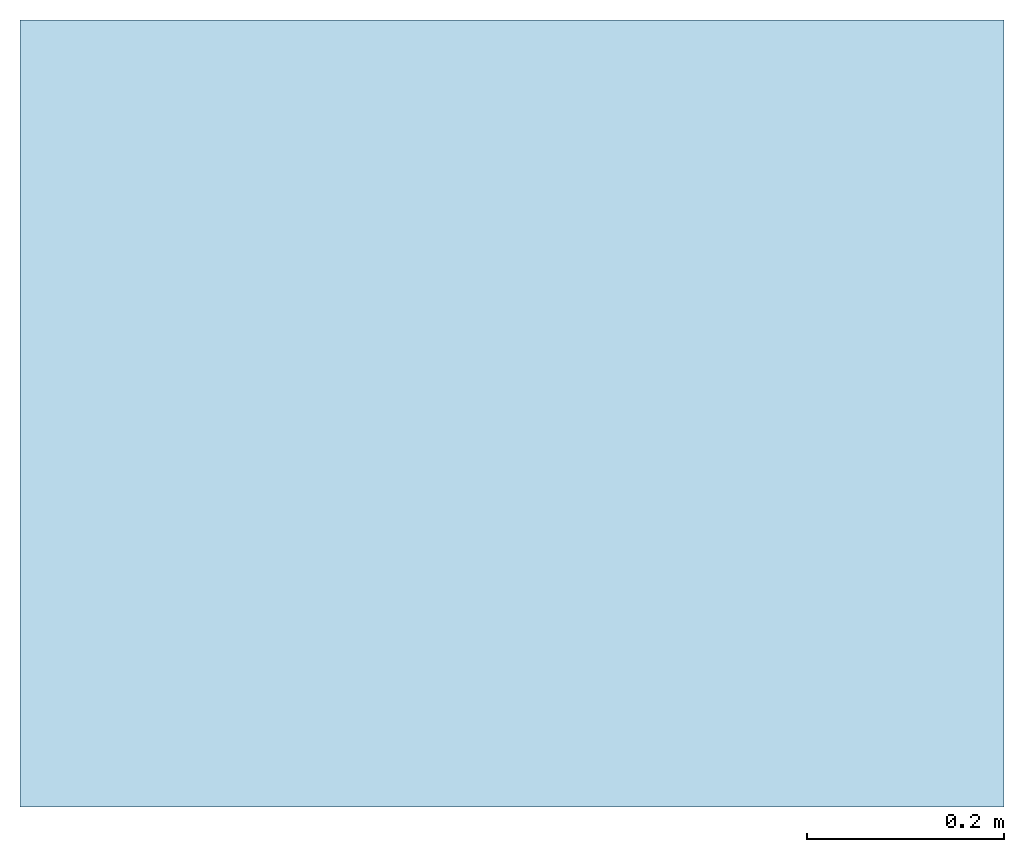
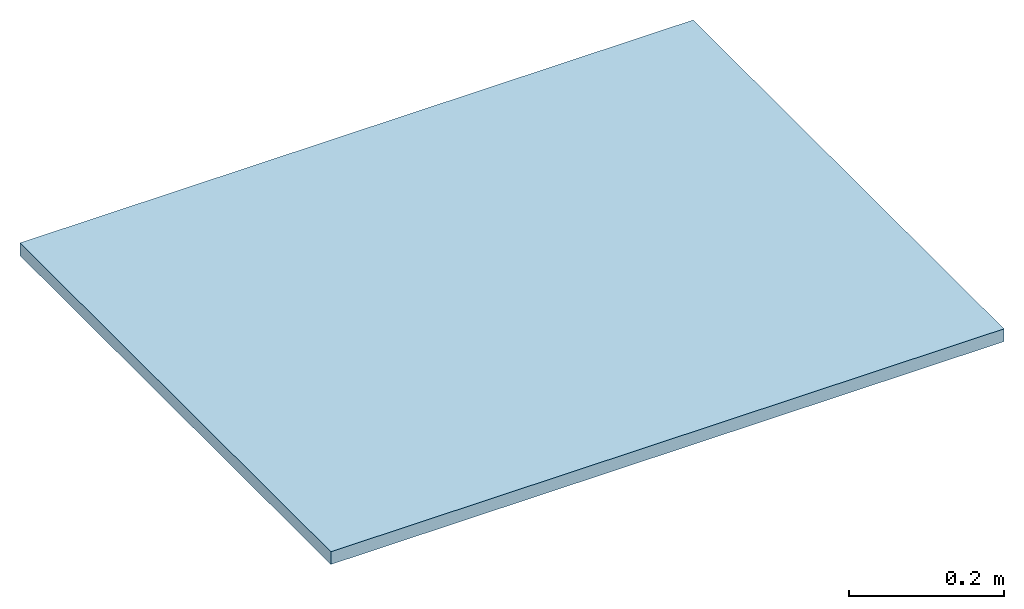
# One storey: 1 slab.
"""IFC2X3 building model written with IfcOpenShell, lengths in millimetres."""

import ifcopenshell
import ifcopenshell.guid

model = None  # the IFC model being written
_history = None  # IfcOwnerHistory: only IFC2X3 demands one
_inside = {}  # id of a spatial element -> (the spatial element, [elements in it])
_under = {}  # id of a project, library or spatial element -> (it, [spatial elements below it])
_declared = {}  # id of a project -> (the project, [libraries it declares])
_typed = {}  # id of a type object -> (the type object, [elements of that type])
_made_of = {}  # id of a material, layer set ... -> (it, [elements and type objects made of it])


def new_model(schema):
    """Start an empty IFC model of exactly this schema.

    Asked for "IFC4X3", IfcOpenShell would pick the latest addendum, in which some entities
    have other attributes; the version numbers below select the first issue.
    IFC2X3 requires an IfcOwnerHistory on every rooted entity: one is made here for all.
    """
    global model, _history
    if schema == "IFC4X3":
        model = ifcopenshell.file(schema_version=(4, 3, 0, 0))
    else:
        model = ifcopenshell.file(schema=schema)
    _inside.clear()
    _under.clear()
    _declared.clear()
    _typed.clear()
    _made_of.clear()
    _history = None
    if model.schema == "IFC2X3":
        org = make("IfcOrganization", Name="unknown")
        user = make(
            "IfcPersonAndOrganization",
            ThePerson=make("IfcPerson", FamilyName="unknown"),
            TheOrganization=org,
        )
        app = make(
            "IfcApplication",
            ApplicationDeveloper=org,
            Version="unknown",
            ApplicationFullName="unknown",
            ApplicationIdentifier="unknown",
        )
        _history = make(
            "IfcOwnerHistory",
            OwningUser=user,
            OwningApplication=app,
            ChangeAction="ADDED",
            CreationDate=0,
        )
    return model


def make(cls, **values):
    """One entity of the class cls with the attributes given. An attribute that is None is left unset."""
    return model.create_entity(
        cls, **{name: value for name, value in values.items() if value is not None}
    )


def entity(cls, *values):
    """Any entity or typed value of the class cls, its attributes in the order of the schema. None: left unset."""
    e = model.create_entity(cls)
    for i, value in enumerate(values):
        if value is not None:
            e[i] = value
    return e


def rooted(cls, **values):
    """An entity with a GlobalId (a new one), such as an element, a storey or a relation."""
    return make(cls, GlobalId=ifcopenshell.guid.new(), OwnerHistory=_history, **values)


def si_unit(unit_type, name, prefix=None):
    """IfcSIUnit, for example si_unit("LENGTHUNIT", "METRE", prefix="MILLI")."""
    return make("IfcSIUnit", UnitType=unit_type, Prefix=prefix, Name=name)


def converted_unit(unit_type, name, factor, base, dimensions=None, offset=None):
    """IfcConversionBasedUnit, such as the inch: factor (a typed value) times the base unit."""
    return make(
        "IfcConversionBasedUnit"
        if offset is None
        else "IfcConversionBasedUnitWithOffset",
        ConversionOffset=offset,
        Dimensions=None
        if dimensions is None
        else entity("IfcDimensionalExponents", *dimensions),
        UnitType=unit_type,
        Name=name,
        ConversionFactor=make(
            "IfcMeasureWithUnit", ValueComponent=factor, UnitComponent=base
        ),
    )


def derived_unit(unit_type, elements):
    """IfcDerivedUnit: a product of units, each with its exponent."""
    return make(
        "IfcDerivedUnit",
        Elements=[
            make("IfcDerivedUnitElement", Unit=unit, Exponent=power)
            for unit, power in elements
        ],
        UnitType=unit_type,
    )


def assignment(units):
    """IfcUnitAssignment: the units of a project."""
    return None if units is None else make("IfcUnitAssignment", Units=units)


def point(xyz):
    """IfcCartesianPoint."""
    return None if xyz is None else make("IfcCartesianPoint", Coordinates=xyz)


def direction(xyz):
    """IfcDirection."""
    return None if xyz is None else make("IfcDirection", DirectionRatios=xyz)


def frame(location, z_axis=None, x_axis=None):
    """IfcAxis2Placement3D, a coordinate frame: its origin and axes. An axis left out is left unset."""
    return make(
        "IfcAxis2Placement3D",
        Location=point(location),
        Axis=direction(z_axis),
        RefDirection=direction(x_axis),
    )


def frame_2d(location, x_axis=None):
    """IfcAxis2Placement2D, a coordinate frame in the plane: its origin and x axis."""
    return make(
        "IfcAxis2Placement2D", Location=point(location), RefDirection=direction(x_axis)
    )


def origin():
    """The frame at (0, 0, 0) with its axes left unset."""
    return frame((0.0, 0.0, 0.0))


def origin_2d_with_axis():
    """The frame at (0, 0) in the plane with the x axis (1, 0) written out."""
    return frame_2d((0.0, 0.0), x_axis=(1.0, 0.0))


def place(relative_to, where):
    """IfcLocalPlacement: puts the frame where relative to a parent placement (None: the world)."""
    return make(
        "IfcLocalPlacement", PlacementRelTo=relative_to, RelativePlacement=where
    )


def context(
    kind, dimensions, precision=None, world=None, true_north=None, identifier=None
):
    """IfcGeometricRepresentationContext, for example the 3D "Model" context."""
    return make(
        "IfcGeometricRepresentationContext",
        ContextIdentifier=identifier,
        ContextType=kind,
        CoordinateSpaceDimension=dimensions,
        Precision=precision,
        WorldCoordinateSystem=world,
        TrueNorth=true_north,
    )


def subcontext(parent, identifier, kind, view, scale=None):
    """IfcGeometricRepresentationSubContext, for example "Body" below "Model"."""
    return make(
        "IfcGeometricRepresentationSubContext",
        ContextIdentifier=identifier,
        ContextType=kind,
        ParentContext=parent,
        TargetScale=scale,
        TargetView=view,
    )


def project(units=None, contexts=None):
    """IfcProject with its units and contexts."""
    return rooted(
        "IfcProject",
        Name="project",
        RepresentationContexts=contexts,
        UnitsInContext=assignment(units),
    )


def spatial(cls, under=None, at=None, **own):
    """A site, building, storey or space (cls), placed at a placement, below another one or the project."""
    s = rooted(cls, ObjectPlacement=at, **own)
    if under is not None:
        _under.setdefault(under.id(), (under, []))[1].append(s)
    return s


def profile(cls, at=None, kind="AREA", **sizes):
    """A parametric profile (cls). Its sizes go by their IFC names, for example OverallWidth=200.0."""
    return make(cls, ProfileType=kind, Position=at, **sizes)


def rectangle(**sizes):
    """IfcRectangleProfileDef."""
    return profile("IfcRectangleProfileDef", **sizes)


def extrude(swept, where, along, depth):
    """IfcExtrudedAreaSolid: the profile swept, set in the frame where, extruded along a direction by depth."""
    return make(
        "IfcExtrudedAreaSolid",
        SweptArea=swept,
        Position=where,
        ExtrudedDirection=direction(along),
        Depth=depth,
    )


def shape(context_of_items, identifier, shape_type, items):
    """IfcShapeRepresentation: the items that make up one representation, for example the "Body"."""
    return make(
        "IfcShapeRepresentation",
        ContextOfItems=context_of_items,
        RepresentationIdentifier=identifier,
        RepresentationType=shape_type,
        Items=items,
    )


def material(Name=None, Category=None):
    """IfcMaterial."""
    return make("IfcMaterial", Name=Name, Category=Category)


def layer(
    of_material, thickness, ventilated=None, Name=None, Category=None, Priority=None
):
    """IfcMaterialLayer: one layer of a wall or slab, of a material (None: an air gap)."""
    return make(
        "IfcMaterialLayer",
        Material=of_material,
        LayerThickness=thickness,
        IsVentilated=ventilated,
        Name=Name,
        Category=Category,
        Priority=Priority,
    )


def layer_set(layers, Name=None):
    """IfcMaterialLayerSet."""
    return make("IfcMaterialLayerSet", MaterialLayers=layers, LayerSetName=Name)


def layer_usage(for_layer_set, set_direction, sense, offset, extent=None):
    """IfcMaterialLayerSetUsage: how a layer set lies in its element."""
    return make(
        "IfcMaterialLayerSetUsage",
        ForLayerSet=for_layer_set,
        LayerSetDirection=set_direction,
        DirectionSense=sense,
        OffsetFromReferenceLine=offset,
        ReferenceExtent=extent,
    )


def made_of(thing, what):
    """Note that an element or type object is made of a material, layer set ...; save() writes the relation."""
    if what is not None:
        _made_of.setdefault(what.id(), (what, []))[1].append(thing)
    return thing


def element(
    cls,
    number,
    at=None,
    inside=None,
    cuts=None,
    type_object=None,
    material=None,
    context=None,
    identifier="Body",
    shape_type=None,
    held_by="IfcProductDefinitionShape",
    body=None,
    shapes=None,
    **own,
):
    """One element of the class cls, such as IfcWall. Its Tag is "e" and its number.

    at: its placement. inside: the storey or other place that contains it. cuts: it is an
    opening in that element (IfcRelVoidsElement). A single representation is given by context,
    identifier, shape_type and body (its items); several are given by shapes. held_by: the class
    of the entity that holds the representations. save() writes the other relations.
    """
    e = rooted(cls, Tag="e%d" % number, ObjectPlacement=at, **own)
    if body is not None:
        shapes = [shape(context, identifier, shape_type, body)]
    if shapes is not None:
        e.Representation = make(held_by, Representations=shapes)
    if inside is not None:
        _inside.setdefault(inside.id(), (inside, []))[1].append(e)
    if cuts is not None:
        rooted(
            "IfcRelVoidsElement", RelatingBuildingElement=cuts, RelatedOpeningElement=e
        )
    if type_object is not None:
        _typed.setdefault(type_object.id(), (type_object, []))[1].append(e)
    return made_of(e, material)


def aggregate(whole, parts):
    """IfcRelAggregates: a whole, such as a stair, and the parts it consists of."""
    return rooted("IfcRelAggregates", RelatingObject=whole, RelatedObjects=parts)


def save(model, path):
    """Write the relations noted so far, then the file.

    IfcRelAggregates (storeys below a building ...), IfcRelContainedInSpatialStructure (elements
    in a storey), IfcRelDefinesByType, IfcRelAssociatesMaterial and IfcRelDeclares: one each for
    every whole, place, type object, material and project.
    """
    for whole, parts in _under.values():
        aggregate(whole, parts)
    for where, things in _inside.values():
        rooted(
            "IfcRelContainedInSpatialStructure",
            RelatedElements=things,
            RelatingStructure=where,
        )
    for kind, things in _typed.values():
        rooted("IfcRelDefinesByType", RelatedObjects=things, RelatingType=kind)
    for what, things in _made_of.values():
        rooted("IfcRelAssociatesMaterial", RelatedObjects=things, RelatingMaterial=what)
    for by, libraries in _declared.values():
        rooted("IfcRelDeclares", RelatingContext=by, RelatedDefinitions=libraries)
    model.write(path)


model = new_model("IFC2X3")

# Units and contexts
model_context = context("Model", 3, precision=0.01, world=origin(), true_north=direction((6.12303176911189e-17, 1.0)))
context_of_model = context(None, 3, precision=0.01, world=origin(), true_north=direction((6.12303176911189e-17, 1.0)))
body_context = subcontext(model_context, "Body", "Model", "MODEL_VIEW")
ifc_project = project(units=[si_unit("LENGTHUNIT", "METRE", prefix="MILLI"), si_unit("AREAUNIT", "SQUARE_METRE"), si_unit("VOLUMEUNIT", "CUBIC_METRE"), converted_unit("PLANEANGLEUNIT", "DEGREE", entity("IfcRatioMeasure", 0.0174532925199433), si_unit("PLANEANGLEUNIT", "RADIAN"), dimensions=[0, 0, 0, 0, 0, 0, 0]), si_unit("MASSUNIT", "GRAM", prefix="KILO"), si_unit("TIMEUNIT", "SECOND"), si_unit("FREQUENCYUNIT", "HERTZ"), si_unit("THERMODYNAMICTEMPERATUREUNIT", "DEGREE_CELSIUS"), derived_unit("THERMALTRANSMITTANCEUNIT", [(si_unit("MASSUNIT", "GRAM", prefix="KILO"), 1), (si_unit("THERMODYNAMICTEMPERATUREUNIT", "KELVIN"), -1), (si_unit("TIMEUNIT", "SECOND"), -3)]), derived_unit("VOLUMETRICFLOWRATEUNIT", [(si_unit("LENGTHUNIT", "METRE"), 3), (si_unit("TIMEUNIT", "SECOND"), -1)]), si_unit("ELECTRICCURRENTUNIT", "AMPERE"), si_unit("ELECTRICVOLTAGEUNIT", "VOLT"), si_unit("POWERUNIT", "WATT"), si_unit("FORCEUNIT", "NEWTON", prefix="KILO"), si_unit("ILLUMINANCEUNIT", "LUX"), si_unit("LUMINOUSFLUXUNIT", "LUMEN"), si_unit("LUMINOUSINTENSITYUNIT", "CANDELA"), si_unit("PRESSUREUNIT", "PASCAL")], contexts=[model_context, context_of_model])

# Site, building, storey
site_placement = place(None, origin())
site = spatial("IfcSite", under=ifc_project, at=site_placement, Name="Default", CompositionType="ELEMENT")
building_placement = place(site_placement, origin())
building = spatial("IfcBuilding", under=site, at=building_placement, CompositionType="ELEMENT")
storey_placement = place(building_placement, origin())
storey = spatial("IfcBuildingStorey", under=building, at=storey_placement, Name="Уровень 1", CompositionType="ELEMENT", Elevation=0.0)

# Slab
ifc_material = material(Name="ROLS_ISOMARKET_Плита ENERGOFLOOR 20/1-0,8 DEO-dm")
ifc_layer = layer(ifc_material, 20.0)
ifc_layer_set = layer_set([ifc_layer], Name="Перекрытие:ROLS_ISOMARKET_Плита ENERGOFLOOR 20/1-0,8 DEO-dm")
ifc_layer_usage = layer_usage(ifc_layer_set, "AXIS3", "POSITIVE", 0.0)
slab_placement = place(storey_placement, origin())
element("IfcSlab", 1, at=slab_placement, inside=storey, material=ifc_layer_usage, Name="Перекрытие:ROLS_ISOMARKET_Плита ENERGOFLOOR 20/1-0,8 DEO-dm", ObjectType="Перекрытие:ROLS_ISOMARKET_Плита ENERGOFLOOR 20/1-0,8 DEO-dm", PredefinedType="FLOOR", context=body_context, shape_type="SweptSolid", body=[
    extrude(rectangle(XDim=800.0, YDim=1000.0, at=origin_2d_with_axis()), frame((-16615.4270794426, 5702.16062637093, 0.0), z_axis=(0.0, 0.0, -1.0), x_axis=(0.0, 1.0, 0.0)), (0.0, 0.0, 1.0), 20.0),
])

save(model, "model.ifc")
